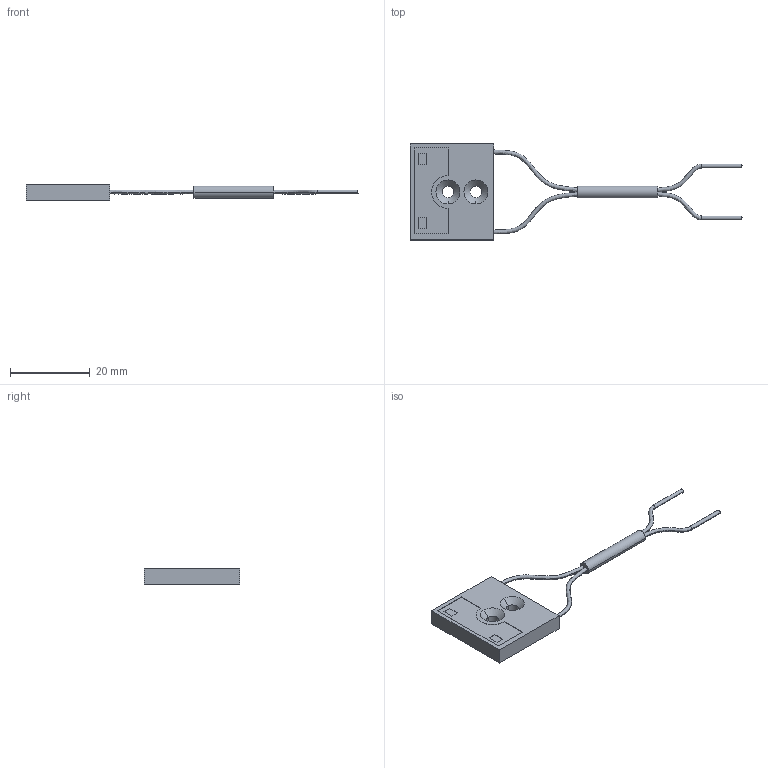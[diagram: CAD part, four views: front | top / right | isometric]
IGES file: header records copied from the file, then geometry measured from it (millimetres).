
Start section: SolidWorks IGES FILE using analytic representation for surfaces
Global section: file name: C:\Documents and Settings\yk0651\デスクトップ\3D_catalog_050904\0_IGES\FD-WL41.IGS; native system: SolidWorks 2004 by SolidWorks Corporation; preprocessor: Version 5.3; author: yk0651; date: 050904.192711; units: millimetre
Bounding box: 83 x 24 x 4 mm (x, y, z)
Volume: 2130.1 mm3; surface area: 1909.5 mm2
Topology: 1 solids, 1 shells, 52 faces, 120 edges, 77 vertices
Faces by surface type: plane 26, bspline 15, revolution 11
